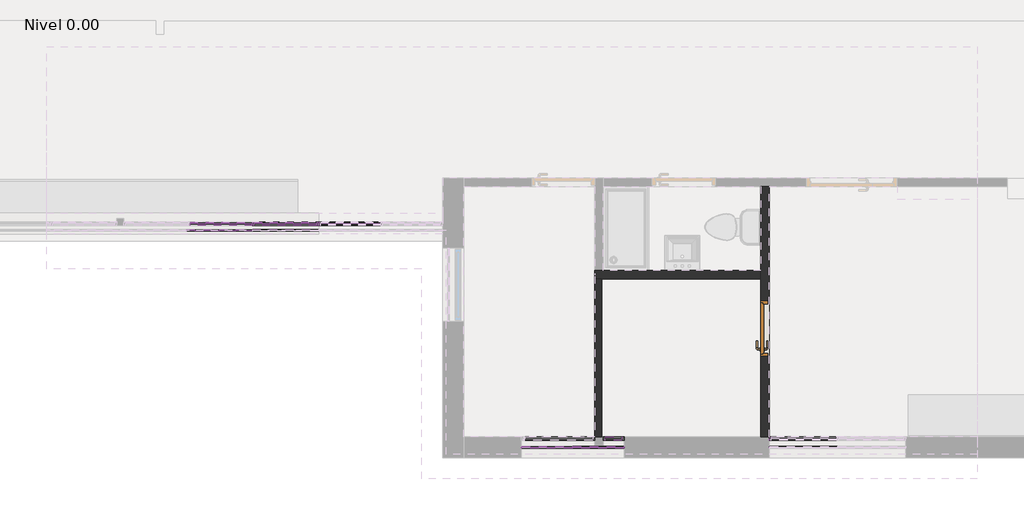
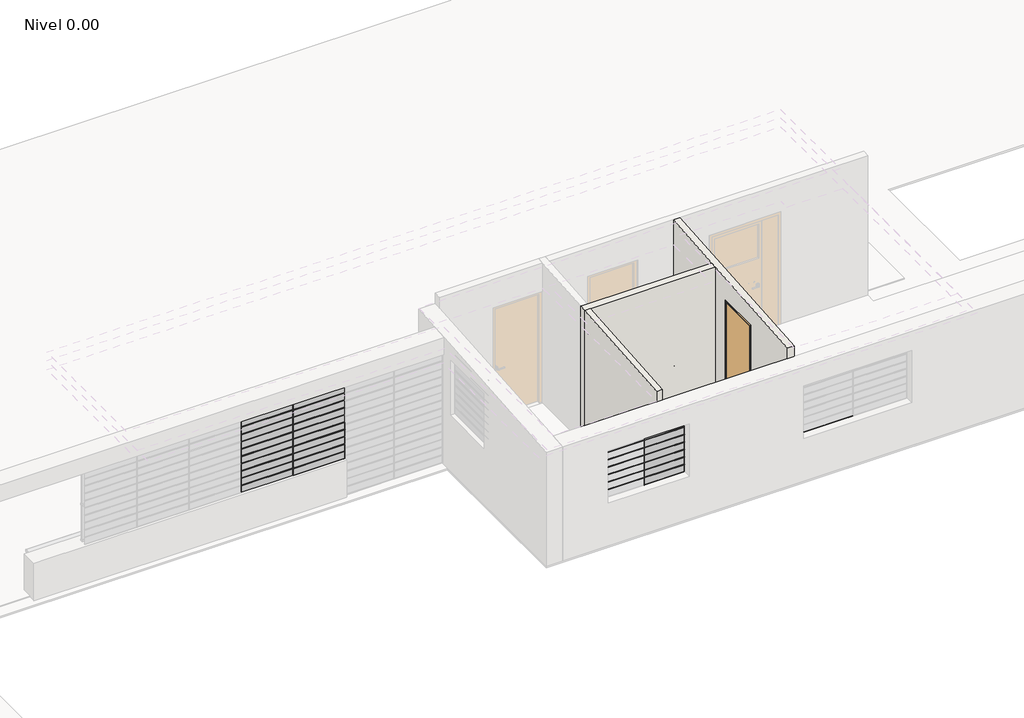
# One storey, part 7 of 27: 88 members, 35 plates, 3 walls, 1 door.
"""IFC4 building model written with IfcOpenShell, lengths in millimetres."""

from ifc_helpers import new_model, si_unit, origin, place, context, project, spatial, faceted_brep, transform, mapped, element, save
from components import puerta_c_06_c06_800x2100mm_e445e519, circular_mullion_14d4c897, circular_mullion_b6a7991f, l_corner_mullion_2c31851b, l_corner_mullion_7bb9dce8, l_corner_mullion_3b3bdf5d, rectangular_mullion_6f6a8ff1, rectangular_mullion_a87e72df, rectangular_mullion_5c6d569c, rectangular_mullion_a4ea75e5, rectangular_mullion_8e38926e, rectangular_mullion_6697ab7a, rectangular_mullion_da1864a4, rectangular_mullion_1f0e14fc, rectangular_mullion_1d964787, rectangular_mullion_5f2e1c77, rectangular_mullion_5442057b, rectangular_mullion_b6f05ad7, rectangular_mullion_bfd1b04e, rectangular_mullion_af5448d7, system_panel_948e591e, system_panel_a232d2f8, system_panel_3d32e46b, system_panel_766ca25a, system_panel_glazed_6e84255a, system_panel_glazed_6576376f, system_panel_glazed_aa347208, system_panel_glazed_7560b1bc

model = new_model("IFC4")

# Units and contexts
model_context = context("Model", 3, world=origin())
ifc_project = project(units=[si_unit("LENGTHUNIT", "METRE", prefix="MILLI")], contexts=[model_context])

# Site, building, storey
site = spatial("IfcSite", under=ifc_project)
building = spatial("IfcBuilding", under=site)
storey = spatial("IfcBuildingStorey", under=building, Name="Nivel 0.00", Elevation=0.0)

# Door
placement = place(None, origin())
puerta_c_06_c06_800x2100mm_shape = puerta_c_06_c06_800x2100mm_e445e519(model_context)
element("IfcDoor", 1, ObjectType="PUERTA_C-06 : C06_800X2100mm", at=placement, inside=storey, context=model_context, shape_type="MappedRepresentation", body=[
    mapped(puerta_c_06_c06_800x2100mm_shape, transform((7836.3277626, -5240.5282624, 0.0), x_axis=(0.0, 1.0, 0.0), y_axis=(-1.0, 0.0, 0.0), z_axis=(0.0, 0.0, 1.0))),
])

# Members
circular_mullion_shape = circular_mullion_14d4c897(model_context)
element("IfcMember", 2, ObjectType="Circular Mullion : ARQ_HERR_16mm", at=placement, inside=storey, context=model_context, shape_type="MappedRepresentation", body=[
    mapped(circular_mullion_shape, transform((510.87331, -3840.5609004, 840.0), x_axis=(0.0, 0.0, 1.0), y_axis=(0.0, -1.0, 0.0), z_axis=(1.0, 0.0, 0.0))),
])
element("IfcMember", 3, ObjectType="Circular Mullion : ARQ_HERR_16mm", at=placement, inside=storey, context=model_context, shape_type="MappedRepresentation", body=[
    mapped(circular_mullion_shape, transform((510.87331, -3840.5609004, 980.0), x_axis=(0.0, 0.0, 1.0), y_axis=(0.0, -1.0, 0.0), z_axis=(1.0, 0.0, 0.0))),
])
element("IfcMember", 4, ObjectType="Circular Mullion : ARQ_HERR_16mm", at=placement, inside=storey, context=model_context, shape_type="MappedRepresentation", body=[
    mapped(circular_mullion_shape, transform((510.87331, -3840.5609004, 1120.0), x_axis=(0.0, 0.0, 1.0), y_axis=(0.0, -1.0, 0.0), z_axis=(1.0, 0.0, 0.0))),
])
element("IfcMember", 5, ObjectType="Circular Mullion : ARQ_HERR_16mm", at=placement, inside=storey, context=model_context, shape_type="MappedRepresentation", body=[
    mapped(circular_mullion_shape, transform((510.87331, -3840.5609004, 1260.0), x_axis=(0.0, 0.0, 1.0), y_axis=(0.0, -1.0, 0.0), z_axis=(1.0, 0.0, 0.0))),
])
element("IfcMember", 6, ObjectType="Circular Mullion : ARQ_HERR_16mm", at=placement, inside=storey, context=model_context, shape_type="MappedRepresentation", body=[
    mapped(circular_mullion_shape, transform((510.87331, -3840.5609004, 1400.0), x_axis=(0.0, 0.0, 1.0), y_axis=(0.0, -1.0, 0.0), z_axis=(1.0, 0.0, 0.0))),
])
element("IfcMember", 7, ObjectType="Circular Mullion : ARQ_HERR_16mm", at=placement, inside=storey, context=model_context, shape_type="MappedRepresentation", body=[
    mapped(circular_mullion_shape, transform((510.87331, -3840.5609004, 1540.0), x_axis=(0.0, 0.0, 1.0), y_axis=(0.0, -1.0, 0.0), z_axis=(1.0, 0.0, 0.0))),
])
element("IfcMember", 8, ObjectType="Circular Mullion : ARQ_HERR_16mm", at=placement, inside=storey, context=model_context, shape_type="MappedRepresentation", body=[
    mapped(circular_mullion_shape, transform((510.87331, -3840.5609004, 1680.0), x_axis=(0.0, 0.0, 1.0), y_axis=(0.0, -1.0, 0.0), z_axis=(1.0, 0.0, 0.0))),
])
element("IfcMember", 9, ObjectType="Circular Mullion : ARQ_HERR_16mm", at=placement, inside=storey, context=model_context, shape_type="MappedRepresentation", body=[
    mapped(circular_mullion_shape, transform((510.87331, -3840.5609004, 1820.0), x_axis=(0.0, 0.0, 1.0), y_axis=(0.0, -1.0, 0.0), z_axis=(1.0, 0.0, 0.0))),
])
element("IfcMember", 10, ObjectType="Circular Mullion : ARQ_HERR_16mm", at=placement, inside=storey, context=model_context, shape_type="MappedRepresentation", body=[
    mapped(circular_mullion_shape, transform((510.87331, -3840.5609004, 1960.0), x_axis=(0.0, 0.0, 1.0), y_axis=(0.0, -1.0, 0.0), z_axis=(1.0, 0.0, 0.0))),
])
circular_mullion_2_shape = circular_mullion_b6a7991f(model_context)
element("IfcMember", 11, ObjectType="Circular Mullion : ARQ_HERR_16mm", at=placement, inside=storey, context=model_context, shape_type="MappedRepresentation", body=[
    mapped(circular_mullion_2_shape, transform((5081.4266325, -6940.6055729, 942.8571429), x_axis=(0.0, 0.0, 1.0), y_axis=(0.0, -1.0, 0.0), z_axis=(1.0, 0.0, 0.0))),
])
element("IfcMember", 12, ObjectType="Circular Mullion : ARQ_HERR_16mm", at=placement, inside=storey, context=model_context, shape_type="MappedRepresentation", body=[
    mapped(circular_mullion_2_shape, transform((5812.63943, -6940.6055729, 942.8571429), x_axis=(0.0, 0.0, 1.0), y_axis=(0.0, -1.0, 0.0), z_axis=(1.0, 0.0, 0.0))),
])
element("IfcMember", 13, ObjectType="Circular Mullion : ARQ_HERR_16mm", at=placement, inside=storey, context=model_context, shape_type="MappedRepresentation", body=[
    mapped(circular_mullion_2_shape, transform((5081.4266325, -6940.6055729, 1085.7142857), x_axis=(0.0, 0.0, 1.0), y_axis=(0.0, -1.0, 0.0), z_axis=(1.0, 0.0, 0.0))),
])
element("IfcMember", 14, ObjectType="Circular Mullion : ARQ_HERR_16mm", at=placement, inside=storey, context=model_context, shape_type="MappedRepresentation", body=[
    mapped(circular_mullion_2_shape, transform((5812.63943, -6940.6055729, 1085.7142857), x_axis=(0.0, 0.0, 1.0), y_axis=(0.0, -1.0, 0.0), z_axis=(1.0, 0.0, 0.0))),
])
element("IfcMember", 15, ObjectType="Circular Mullion : ARQ_HERR_16mm", at=placement, inside=storey, context=model_context, shape_type="MappedRepresentation", body=[
    mapped(circular_mullion_2_shape, transform((5081.4266325, -6940.6055729, 1228.5714286), x_axis=(0.0, 0.0, 1.0), y_axis=(0.0, -1.0, 0.0), z_axis=(1.0, 0.0, 0.0))),
])
element("IfcMember", 16, ObjectType="Circular Mullion : ARQ_HERR_16mm", at=placement, inside=storey, context=model_context, shape_type="MappedRepresentation", body=[
    mapped(circular_mullion_2_shape, transform((5812.63943, -6940.6055729, 1228.5714286), x_axis=(0.0, 0.0, 1.0), y_axis=(0.0, -1.0, 0.0), z_axis=(1.0, 0.0, 0.0))),
])
element("IfcMember", 17, ObjectType="Circular Mullion : ARQ_HERR_16mm", at=placement, inside=storey, context=model_context, shape_type="MappedRepresentation", body=[
    mapped(circular_mullion_2_shape, transform((5081.4266325, -6940.6055729, 1371.4285714), x_axis=(0.0, 0.0, 1.0), y_axis=(0.0, -1.0, 0.0), z_axis=(1.0, 0.0, 0.0))),
])
element("IfcMember", 18, ObjectType="Circular Mullion : ARQ_HERR_16mm", at=placement, inside=storey, context=model_context, shape_type="MappedRepresentation", body=[
    mapped(circular_mullion_2_shape, transform((5812.63943, -6940.6055729, 1371.4285714), x_axis=(0.0, 0.0, 1.0), y_axis=(0.0, -1.0, 0.0), z_axis=(1.0, 0.0, 0.0))),
])
element("IfcMember", 19, ObjectType="Circular Mullion : ARQ_HERR_16mm", at=placement, inside=storey, context=model_context, shape_type="MappedRepresentation", body=[
    mapped(circular_mullion_2_shape, transform((5081.4266325, -6940.6055729, 1514.2857143), x_axis=(0.0, 0.0, 1.0), y_axis=(0.0, -1.0, 0.0), z_axis=(1.0, 0.0, 0.0))),
])
element("IfcMember", 20, ObjectType="Circular Mullion : ARQ_HERR_16mm", at=placement, inside=storey, context=model_context, shape_type="MappedRepresentation", body=[
    mapped(circular_mullion_2_shape, transform((5812.63943, -6940.6055729, 1514.2857143), x_axis=(0.0, 0.0, 1.0), y_axis=(0.0, -1.0, 0.0), z_axis=(1.0, 0.0, 0.0))),
])
element("IfcMember", 21, ObjectType="Circular Mullion : ARQ_HERR_16mm", at=placement, inside=storey, context=model_context, shape_type="MappedRepresentation", body=[
    mapped(circular_mullion_2_shape, transform((5081.4266325, -6940.6055729, 1657.1428571), x_axis=(0.0, 0.0, 1.0), y_axis=(0.0, -1.0, 0.0), z_axis=(1.0, 0.0, 0.0))),
])
element("IfcMember", 22, ObjectType="Circular Mullion : ARQ_HERR_16mm", at=placement, inside=storey, context=model_context, shape_type="MappedRepresentation", body=[
    mapped(circular_mullion_2_shape, transform((5812.63943, -6940.6055729, 1657.1428571), x_axis=(0.0, 0.0, 1.0), y_axis=(0.0, -1.0, 0.0), z_axis=(1.0, 0.0, 0.0))),
])
l_corner_mullion_shape = l_corner_mullion_2c31851b(model_context)
element("IfcMember", 23, ObjectType="L Corner Mullion : ARQ_HERR_15X6mm", at=placement, inside=storey, context=model_context, shape_type="MappedRepresentation", body=[
    mapped(l_corner_mullion_shape, transform((1453.0591264, -3840.5609004, 2100.0), x_axis=(0.0, 0.0, 1.0), y_axis=(0.0, -1.0, 0.0), z_axis=(1.0, 0.0, 0.0))),
])
element("IfcMember", 24, ObjectType="L Corner Mullion : ARQ_HERR_15X6mm", at=placement, inside=storey, context=model_context, shape_type="MappedRepresentation", body=[
    mapped(l_corner_mullion_shape, transform((510.87331, -3840.5609004, 2100.0), x_axis=(0.0, 0.0, 1.0), y_axis=(0.0, -1.0, 0.0), z_axis=(1.0, 0.0, 0.0))),
])
element("IfcMember", 25, ObjectType="L Corner Mullion : ARQ_HERR_15X6mm", at=placement, inside=storey, context=model_context, shape_type="MappedRepresentation", body=[
    mapped(l_corner_mullion_shape, transform((516.87331, -3840.5609004, 700.0), x_axis=(0.0, 0.0, -1.0), y_axis=(0.0, -1.0, 0.0), z_axis=(-1.0, 0.0, 0.0))),
])
l_corner_mullion_2_shape = l_corner_mullion_7bb9dce8(model_context)
element("IfcMember", 26, ObjectType="L Corner Mullion : ARQ_HERR_15X6mm", at=placement, inside=storey, context=model_context, shape_type="MappedRepresentation", body=[
    mapped(l_corner_mullion_2_shape, transform((7896.2514946, -6940.6055729, 800.0), x_axis=(0.0, 0.0, -1.0), y_axis=(0.0, -1.0, 0.0), z_axis=(-1.0, 0.0, 0.0))),
])
l_corner_mullion_3_shape = l_corner_mullion_3b3bdf5d(model_context)
element("IfcMember", 27, ObjectType="L Corner Mullion : ARQ_HERR_15X6mm", at=placement, inside=storey, context=model_context, shape_type="MappedRepresentation", body=[
    mapped(l_corner_mullion_3_shape, transform((5812.63943, -6940.6055729, 1800.0), x_axis=(0.0, 0.0, 1.0), y_axis=(0.0, -1.0, 0.0), z_axis=(1.0, 0.0, 0.0))),
])
element("IfcMember", 28, ObjectType="L Corner Mullion : ARQ_HERR_15X6mm", at=placement, inside=storey, context=model_context, shape_type="MappedRepresentation", body=[
    mapped(l_corner_mullion_3_shape, transform((5081.4266325, -6940.6055729, 1800.0), x_axis=(0.0, 0.0, 1.0), y_axis=(0.0, -1.0, 0.0), z_axis=(1.0, 0.0, 0.0))),
])
element("IfcMember", 29, ObjectType="L Corner Mullion : ARQ_HERR_15X6mm", at=placement, inside=storey, context=model_context, shape_type="MappedRepresentation", body=[
    mapped(l_corner_mullion_3_shape, transform((5087.4266325, -6940.6055729, 800.0), x_axis=(0.0, 0.0, -1.0), y_axis=(0.0, -1.0, 0.0), z_axis=(-1.0, 0.0, 0.0))),
])
rectangular_mullion_shape = rectangular_mullion_6f6a8ff1(model_context)
element("IfcMember", 30, ObjectType="Rectangular Mullion : ARQ_TV_MULL_50x30mm", at=placement, inside=storey, context=model_context, shape_type="MappedRepresentation", body=[
    mapped(rectangular_mullion_shape, transform((1489.0591264, -3740.5609013, 0.0), x_axis=(0.0, 0.0, -1.0), y_axis=(0.0, -1.0, 0.0), z_axis=(-1.0, 0.0, 0.0))),
])
rectangular_mullion_2_shape = rectangular_mullion_a87e72df(model_context)
element("IfcMember", 31, ObjectType="Rectangular Mullion : ARQ_TV_MULL_50x30mm", at=placement, inside=storey, context=model_context, shape_type="MappedRepresentation", body=[
    mapped(rectangular_mullion_2_shape, transform((527.3320431, -3740.5609004, 700.0), x_axis=(1.0, 0.0, 0.0), y_axis=(0.0, -1.0, 0.0), z_axis=(0.0, 0.0, -1.0))),
])
element("IfcMember", 32, ObjectType="Rectangular Mullion : ARQ_TV_MULL_50x30mm", at=placement, inside=storey, context=model_context, shape_type="MappedRepresentation", body=[
    mapped(rectangular_mullion_2_shape, transform((527.3320431, -3740.5609004, 1400.0), x_axis=(1.0, 0.0, 0.0), y_axis=(0.0, -1.0, 0.0), z_axis=(0.0, 0.0, -1.0))),
])
rectangular_mullion_3_shape = rectangular_mullion_5c6d569c(model_context)
element("IfcMember", 33, ObjectType="Rectangular Mullion : ARQ_TV_MULL_50x30mm", at=placement, inside=storey, context=model_context, shape_type="MappedRepresentation", body=[
    mapped(rectangular_mullion_3_shape, transform((1459.0591264, -3740.5609004, 700.0), x_axis=(1.0, 0.0, 0.0), y_axis=(0.0, -1.0, 0.0), z_axis=(0.0, 0.0, -1.0))),
])
element("IfcMember", 34, ObjectType="Rectangular Mullion : ARQ_TV_MULL_50x30mm", at=placement, inside=storey, context=model_context, shape_type="MappedRepresentation", body=[
    mapped(rectangular_mullion_3_shape, transform((1459.0591264, -3740.5609004, 1400.0), x_axis=(1.0, 0.0, 0.0), y_axis=(0.0, -1.0, 0.0), z_axis=(0.0, 0.0, -1.0))),
])
element("IfcMember", 35, ObjectType="Rectangular Mullion : ARQ_TV_MULL_50x30mm", at=placement, inside=storey, context=model_context, shape_type="MappedRepresentation", body=[
    mapped(rectangular_mullion_3_shape, transform((1459.0591264, -3740.5609013, 2100.0), x_axis=(-1.0, 0.0, 0.0), y_axis=(0.0, -1.0, 0.0), z_axis=(0.0, 0.0, 1.0))),
])
element("IfcMember", 36, ObjectType="Rectangular Mullion : ARQ_TV_MULL_50x30mm", at=placement, inside=storey, context=model_context, shape_type="MappedRepresentation", body=[
    mapped(rectangular_mullion_3_shape, transform((1459.0591264, -3740.5609013, 700.0), x_axis=(-1.0, 0.0, 0.0), y_axis=(0.0, -1.0, 0.0), z_axis=(0.0, 0.0, 1.0))),
])
element("IfcMember", 37, ObjectType="Rectangular Mullion : ARQ_TV_MULL_50x30mm", at=placement, inside=storey, context=model_context, shape_type="MappedRepresentation", body=[
    mapped(rectangular_mullion_3_shape, transform((1459.0591264, -3740.5609013, 1400.0), x_axis=(-1.0, 0.0, 0.0), y_axis=(0.0, -1.0, 0.0), z_axis=(0.0, 0.0, 1.0))),
])
rectangular_mullion_4_shape = rectangular_mullion_a4ea75e5(model_context)
element("IfcMember", 38, ObjectType="Rectangular Mullion : ARQ_TV_MULL_50x30mm", at=placement, inside=storey, context=model_context, shape_type="MappedRepresentation", body=[
    mapped(rectangular_mullion_4_shape, transform((1429.0591264, -3740.5609004, 2100.0), x_axis=(0.0, 0.0, 1.0), y_axis=(0.0, -1.0, 0.0), z_axis=(1.0, 0.0, 0.0))),
])
element("IfcMember", 39, ObjectType="Rectangular Mullion : ARQ_TV_MULL_50x30mm", at=placement, inside=storey, context=model_context, shape_type="MappedRepresentation", body=[
    mapped(rectangular_mullion_4_shape, transform((512.3320431, -3740.5609004, 2100.0), x_axis=(0.0, 0.0, 1.0), y_axis=(0.0, -1.0, 0.0), z_axis=(1.0, 0.0, 0.0))),
])
element("IfcMember", 40, ObjectType="Rectangular Mullion : ARQ_TV_MULL_50x30mm", at=placement, inside=storey, context=model_context, shape_type="MappedRepresentation", body=[
    mapped(rectangular_mullion_4_shape, transform((542.3320431, -3740.5609004, 700.0), x_axis=(0.0, 0.0, -1.0), y_axis=(0.0, -1.0, 0.0), z_axis=(-1.0, 0.0, 0.0))),
])
rectangular_mullion_5_shape = rectangular_mullion_8e38926e(model_context)
element("IfcMember", 41, ObjectType="Rectangular Mullion : ARQ_TV_MULL_50x30mm", at=placement, inside=storey, context=model_context, shape_type="MappedRepresentation", body=[
    mapped(rectangular_mullion_5_shape, transform((512.3320431, -3740.5609004, 1400.0), x_axis=(0.0, 0.0, 1.0), y_axis=(0.0, -1.0, 0.0), z_axis=(1.0, 0.0, 0.0))),
])
element("IfcMember", 42, ObjectType="Rectangular Mullion : ARQ_TV_MULL_50x30mm", at=placement, inside=storey, context=model_context, shape_type="MappedRepresentation", body=[
    mapped(rectangular_mullion_5_shape, transform((1429.0591264, -3740.5609004, 1400.0), x_axis=(0.0, 0.0, 1.0), y_axis=(0.0, -1.0, 0.0), z_axis=(1.0, 0.0, 0.0))),
])
rectangular_mullion_6_shape = rectangular_mullion_6697ab7a(model_context)
element("IfcMember", 43, ObjectType="Rectangular Mullion : ARQ_TV_MULL_50x30mm", at=placement, inside=storey, context=model_context, shape_type="MappedRepresentation", body=[
    mapped(rectangular_mullion_6_shape, transform((5369.9777624, -6815.6055729, 800.0), x_axis=(0.0, 0.0, -1.0), y_axis=(0.0, 1.0, 0.0), z_axis=(1.0, 0.0, 0.0))),
])
rectangular_mullion_7_shape = rectangular_mullion_da1864a4(model_context)
element("IfcMember", 44, ObjectType="Rectangular Mullion : ARQ_TV_MULL_50x30mm", at=placement, inside=storey, context=model_context, shape_type="MappedRepresentation", body=[
    mapped(rectangular_mullion_7_shape, transform((5788.63943, -6815.6055729, 1800.0), x_axis=(0.0, 0.0, 1.0), y_axis=(0.0, -1.0, 0.0), z_axis=(1.0, 0.0, 0.0))),
])
element("IfcMember", 45, ObjectType="Rectangular Mullion : ARQ_TV_MULL_50x30mm", at=placement, inside=storey, context=model_context, shape_type="MappedRepresentation", body=[
    mapped(rectangular_mullion_7_shape, transform((5549.9777624, -6815.6055729, 800.0), x_axis=(0.0, 0.0, -1.0), y_axis=(0.0, -1.0, 0.0), z_axis=(-1.0, 0.0, 0.0))),
])
rectangular_mullion_8_shape = rectangular_mullion_1f0e14fc(model_context)
element("IfcMember", 46, ObjectType="Rectangular Mullion : ARQ_TV_MULL_50x30mm", at=placement, inside=storey, context=model_context, shape_type="MappedRepresentation", body=[
    mapped(rectangular_mullion_8_shape, transform((7920.2514946, -6815.6055729, 800.0), x_axis=(0.0, 0.0, -1.0), y_axis=(0.0, -1.0, 0.0), z_axis=(-1.0, 0.0, 0.0))),
])
rectangular_mullion_9_shape = rectangular_mullion_1d964787(model_context)
element("IfcMember", 47, ObjectType="Rectangular Mullion : ARQ_TV_MULL_50x30mm", at=placement, inside=storey, context=model_context, shape_type="MappedRepresentation", body=[
    mapped(rectangular_mullion_9_shape, transform((5818.63943, -6815.6055729, 800.0), x_axis=(1.0, 0.0, 0.0), y_axis=(0.0, -1.0, 0.0), z_axis=(0.0, 0.0, -1.0))),
])
element("IfcMember", 48, ObjectType="Rectangular Mullion : ARQ_TV_MULL_50x30mm", at=placement, inside=storey, context=model_context, shape_type="MappedRepresentation", body=[
    mapped(rectangular_mullion_9_shape, transform((5399.9777624, -6815.6055729, 1800.0), x_axis=(1.0, 0.0, 0.0), y_axis=(0.0, 1.0, 0.0), z_axis=(0.0, 0.0, 1.0))),
])
element("IfcMember", 49, ObjectType="Rectangular Mullion : ARQ_TV_MULL_50x30mm", at=placement, inside=storey, context=model_context, shape_type="MappedRepresentation", body=[
    mapped(rectangular_mullion_9_shape, transform((5519.9777624, -6815.6055729, 1800.0), x_axis=(-1.0, 0.0, 0.0), y_axis=(0.0, -1.0, 0.0), z_axis=(0.0, 0.0, 1.0))),
])
rectangular_mullion_10_shape = rectangular_mullion_5f2e1c77(model_context)
element("IfcMember", 50, ObjectType="Rectangular Mullion : ARQ_TV_MULL_50x30mm", at=placement, inside=storey, context=model_context, shape_type="MappedRepresentation", body=[
    mapped(rectangular_mullion_10_shape, transform((7890.2514946, -6815.6055729, 1800.0), x_axis=(-1.0, 0.0, 0.0), y_axis=(0.0, -1.0, 0.0), z_axis=(0.0, 0.0, 1.0))),
])
element("IfcMember", 51, ObjectType="Rectangular Mullion : ARQ_TV_MULL_50x30mm", at=placement, inside=storey, context=model_context, shape_type="MappedRepresentation", body=[
    mapped(rectangular_mullion_10_shape, transform((7890.2514946, -6815.6055729, 1300.0), x_axis=(-1.0, 0.0, 0.0), y_axis=(0.0, -1.0, 0.0), z_axis=(0.0, 0.0, 1.0))),
])
rectangular_mullion_11_shape = rectangular_mullion_5442057b(model_context)
element("IfcMember", 52, ObjectType="Rectangular Mullion : ARQ_HERR_15X6mm", at=placement, inside=storey, context=model_context, shape_type="MappedRepresentation", body=[
    mapped(rectangular_mullion_11_shape, transform((513.87331, -3840.5609004, 700.0), x_axis=(1.0, 0.0, 0.0), y_axis=(0.0, -1.0, 0.0), z_axis=(0.0, 0.0, -1.0))),
])
element("IfcMember", 53, ObjectType="Rectangular Mullion : ARQ_HERR_15X6mm", at=placement, inside=storey, context=model_context, shape_type="MappedRepresentation", body=[
    mapped(rectangular_mullion_11_shape, transform((513.87331, -3840.5609004, 840.0), x_axis=(1.0, 0.0, 0.0), y_axis=(0.0, -1.0, 0.0), z_axis=(0.0, 0.0, -1.0))),
])
element("IfcMember", 54, ObjectType="Rectangular Mullion : ARQ_HERR_15X6mm", at=placement, inside=storey, context=model_context, shape_type="MappedRepresentation", body=[
    mapped(rectangular_mullion_11_shape, transform((513.87331, -3840.5609004, 980.0), x_axis=(1.0, 0.0, 0.0), y_axis=(0.0, -1.0, 0.0), z_axis=(0.0, 0.0, -1.0))),
])
element("IfcMember", 55, ObjectType="Rectangular Mullion : ARQ_HERR_15X6mm", at=placement, inside=storey, context=model_context, shape_type="MappedRepresentation", body=[
    mapped(rectangular_mullion_11_shape, transform((513.87331, -3840.5609004, 1120.0), x_axis=(1.0, 0.0, 0.0), y_axis=(0.0, -1.0, 0.0), z_axis=(0.0, 0.0, -1.0))),
])
element("IfcMember", 56, ObjectType="Rectangular Mullion : ARQ_HERR_15X6mm", at=placement, inside=storey, context=model_context, shape_type="MappedRepresentation", body=[
    mapped(rectangular_mullion_11_shape, transform((513.87331, -3840.5609004, 1260.0), x_axis=(1.0, 0.0, 0.0), y_axis=(0.0, -1.0, 0.0), z_axis=(0.0, 0.0, -1.0))),
])
element("IfcMember", 57, ObjectType="Rectangular Mullion : ARQ_HERR_15X6mm", at=placement, inside=storey, context=model_context, shape_type="MappedRepresentation", body=[
    mapped(rectangular_mullion_11_shape, transform((513.87331, -3840.5609004, 1400.0), x_axis=(1.0, 0.0, 0.0), y_axis=(0.0, -1.0, 0.0), z_axis=(0.0, 0.0, -1.0))),
])
element("IfcMember", 58, ObjectType="Rectangular Mullion : ARQ_HERR_15X6mm", at=placement, inside=storey, context=model_context, shape_type="MappedRepresentation", body=[
    mapped(rectangular_mullion_11_shape, transform((513.87331, -3840.5609004, 1540.0), x_axis=(1.0, 0.0, 0.0), y_axis=(0.0, -1.0, 0.0), z_axis=(0.0, 0.0, -1.0))),
])
element("IfcMember", 59, ObjectType="Rectangular Mullion : ARQ_HERR_15X6mm", at=placement, inside=storey, context=model_context, shape_type="MappedRepresentation", body=[
    mapped(rectangular_mullion_11_shape, transform((513.87331, -3840.5609004, 1680.0), x_axis=(1.0, 0.0, 0.0), y_axis=(0.0, -1.0, 0.0), z_axis=(0.0, 0.0, -1.0))),
])
element("IfcMember", 60, ObjectType="Rectangular Mullion : ARQ_HERR_15X6mm", at=placement, inside=storey, context=model_context, shape_type="MappedRepresentation", body=[
    mapped(rectangular_mullion_11_shape, transform((513.87331, -3840.5609004, 1820.0), x_axis=(1.0, 0.0, 0.0), y_axis=(0.0, -1.0, 0.0), z_axis=(0.0, 0.0, -1.0))),
])
element("IfcMember", 61, ObjectType="Rectangular Mullion : ARQ_HERR_15X6mm", at=placement, inside=storey, context=model_context, shape_type="MappedRepresentation", body=[
    mapped(rectangular_mullion_11_shape, transform((513.87331, -3840.5609004, 1960.0), x_axis=(1.0, 0.0, 0.0), y_axis=(0.0, -1.0, 0.0), z_axis=(0.0, 0.0, -1.0))),
])
rectangular_mullion_12_shape = rectangular_mullion_b6f05ad7(model_context)
element("IfcMember", 62, ObjectType="Rectangular Mullion : ARQ_HERR_15X6mm", at=placement, inside=storey, context=model_context, shape_type="MappedRepresentation", body=[
    mapped(rectangular_mullion_12_shape, transform((1459.0591264, -3840.5609004, 700.0), x_axis=(1.0, 0.0, 0.0), y_axis=(0.0, -1.0, 0.0), z_axis=(0.0, 0.0, -1.0))),
])
element("IfcMember", 63, ObjectType="Rectangular Mullion : ARQ_HERR_15X6mm", at=placement, inside=storey, context=model_context, shape_type="MappedRepresentation", body=[
    mapped(rectangular_mullion_12_shape, transform((1459.0591264, -3840.5609004, 840.0), x_axis=(1.0, 0.0, 0.0), y_axis=(0.0, -1.0, 0.0), z_axis=(0.0, 0.0, -1.0))),
])
element("IfcMember", 64, ObjectType="Rectangular Mullion : ARQ_HERR_15X6mm", at=placement, inside=storey, context=model_context, shape_type="MappedRepresentation", body=[
    mapped(rectangular_mullion_12_shape, transform((1459.0591264, -3840.5609004, 980.0), x_axis=(1.0, 0.0, 0.0), y_axis=(0.0, -1.0, 0.0), z_axis=(0.0, 0.0, -1.0))),
])
element("IfcMember", 65, ObjectType="Rectangular Mullion : ARQ_HERR_15X6mm", at=placement, inside=storey, context=model_context, shape_type="MappedRepresentation", body=[
    mapped(rectangular_mullion_12_shape, transform((1459.0591264, -3840.5609004, 1120.0), x_axis=(1.0, 0.0, 0.0), y_axis=(0.0, -1.0, 0.0), z_axis=(0.0, 0.0, -1.0))),
])
element("IfcMember", 66, ObjectType="Rectangular Mullion : ARQ_HERR_15X6mm", at=placement, inside=storey, context=model_context, shape_type="MappedRepresentation", body=[
    mapped(rectangular_mullion_12_shape, transform((1459.0591264, -3840.5609004, 1260.0), x_axis=(1.0, 0.0, 0.0), y_axis=(0.0, -1.0, 0.0), z_axis=(0.0, 0.0, -1.0))),
])
rectangular_mullion_13_shape = rectangular_mullion_bfd1b04e(model_context)
element("IfcMember", 67, ObjectType="Rectangular Mullion : ARQ_HERR_15X6mm", at=placement, inside=storey, context=model_context, shape_type="MappedRepresentation", body=[
    mapped(rectangular_mullion_13_shape, transform((5084.4266325, -6940.6055729, 800.0), x_axis=(1.0, 0.0, 0.0), y_axis=(0.0, -1.0, 0.0), z_axis=(0.0, 0.0, -1.0))),
])
element("IfcMember", 68, ObjectType="Rectangular Mullion : ARQ_HERR_15X6mm", at=placement, inside=storey, context=model_context, shape_type="MappedRepresentation", body=[
    mapped(rectangular_mullion_13_shape, transform((5084.4266325, -6940.6055729, 942.8571429), x_axis=(1.0, 0.0, 0.0), y_axis=(0.0, -1.0, 0.0), z_axis=(0.0, 0.0, -1.0))),
])
element("IfcMember", 69, ObjectType="Rectangular Mullion : ARQ_HERR_15X6mm", at=placement, inside=storey, context=model_context, shape_type="MappedRepresentation", body=[
    mapped(rectangular_mullion_13_shape, transform((5084.4266325, -6940.6055729, 1085.7142857), x_axis=(1.0, 0.0, 0.0), y_axis=(0.0, -1.0, 0.0), z_axis=(0.0, 0.0, -1.0))),
])
element("IfcMember", 70, ObjectType="Rectangular Mullion : ARQ_HERR_15X6mm", at=placement, inside=storey, context=model_context, shape_type="MappedRepresentation", body=[
    mapped(rectangular_mullion_13_shape, transform((5084.4266325, -6940.6055729, 1228.5714286), x_axis=(1.0, 0.0, 0.0), y_axis=(0.0, -1.0, 0.0), z_axis=(0.0, 0.0, -1.0))),
])
element("IfcMember", 71, ObjectType="Rectangular Mullion : ARQ_HERR_15X6mm", at=placement, inside=storey, context=model_context, shape_type="MappedRepresentation", body=[
    mapped(rectangular_mullion_13_shape, transform((5084.4266325, -6940.6055729, 1371.4285714), x_axis=(1.0, 0.0, 0.0), y_axis=(0.0, -1.0, 0.0), z_axis=(0.0, 0.0, -1.0))),
])
element("IfcMember", 72, ObjectType="Rectangular Mullion : ARQ_HERR_15X6mm", at=placement, inside=storey, context=model_context, shape_type="MappedRepresentation", body=[
    mapped(rectangular_mullion_13_shape, transform((5084.4266325, -6940.6055729, 1514.2857143), x_axis=(1.0, 0.0, 0.0), y_axis=(0.0, -1.0, 0.0), z_axis=(0.0, 0.0, -1.0))),
])
element("IfcMember", 73, ObjectType="Rectangular Mullion : ARQ_HERR_15X6mm", at=placement, inside=storey, context=model_context, shape_type="MappedRepresentation", body=[
    mapped(rectangular_mullion_13_shape, transform((5084.4266325, -6940.6055729, 1657.1428571), x_axis=(1.0, 0.0, 0.0), y_axis=(0.0, -1.0, 0.0), z_axis=(0.0, 0.0, -1.0))),
])
rectangular_mullion_14_shape = rectangular_mullion_af5448d7(model_context)
element("IfcMember", 74, ObjectType="Rectangular Mullion : ARQ_HERR_15X6mm", at=placement, inside=storey, context=model_context, shape_type="MappedRepresentation", body=[
    mapped(rectangular_mullion_14_shape, transform((5818.63943, -6940.6055729, 800.0), x_axis=(1.0, 0.0, 0.0), y_axis=(0.0, -1.0, 0.0), z_axis=(0.0, 0.0, -1.0))),
])
element("IfcMember", 75, ObjectType="Rectangular Mullion : ARQ_HERR_15X6mm", at=placement, inside=storey, context=model_context, shape_type="MappedRepresentation", body=[
    mapped(rectangular_mullion_14_shape, transform((5818.63943, -6940.6055729, 942.8571429), x_axis=(1.0, 0.0, 0.0), y_axis=(0.0, -1.0, 0.0), z_axis=(0.0, 0.0, -1.0))),
])
element("IfcMember", 76, ObjectType="Rectangular Mullion : ARQ_HERR_15X6mm", at=placement, inside=storey, context=model_context, shape_type="MappedRepresentation", body=[
    mapped(rectangular_mullion_14_shape, transform((5818.63943, -6940.6055729, 1085.7142857), x_axis=(1.0, 0.0, 0.0), y_axis=(0.0, -1.0, 0.0), z_axis=(0.0, 0.0, -1.0))),
])
element("IfcMember", 77, ObjectType="Rectangular Mullion : ARQ_HERR_15X6mm", at=placement, inside=storey, context=model_context, shape_type="MappedRepresentation", body=[
    mapped(rectangular_mullion_14_shape, transform((5818.63943, -6940.6055729, 1228.5714286), x_axis=(1.0, 0.0, 0.0), y_axis=(0.0, -1.0, 0.0), z_axis=(0.0, 0.0, -1.0))),
])
element("IfcMember", 78, ObjectType="Rectangular Mullion : ARQ_HERR_15X6mm", at=placement, inside=storey, context=model_context, shape_type="MappedRepresentation", body=[
    mapped(rectangular_mullion_14_shape, transform((5818.63943, -6940.6055729, 1371.4285714), x_axis=(1.0, 0.0, 0.0), y_axis=(0.0, -1.0, 0.0), z_axis=(0.0, 0.0, -1.0))),
])
element("IfcMember", 79, ObjectType="Rectangular Mullion : ARQ_HERR_15X6mm", at=placement, inside=storey, context=model_context, shape_type="MappedRepresentation", body=[
    mapped(rectangular_mullion_14_shape, transform((5818.63943, -6940.6055729, 1514.2857143), x_axis=(1.0, 0.0, 0.0), y_axis=(0.0, -1.0, 0.0), z_axis=(0.0, 0.0, -1.0))),
])
element("IfcMember", 80, ObjectType="Rectangular Mullion : ARQ_HERR_15X6mm", at=placement, inside=storey, context=model_context, shape_type="MappedRepresentation", body=[
    mapped(rectangular_mullion_14_shape, transform((5818.63943, -6940.6055729, 1657.1428571), x_axis=(1.0, 0.0, 0.0), y_axis=(0.0, -1.0, 0.0), z_axis=(0.0, 0.0, -1.0))),
])
element("IfcMember", 81, ObjectType="Rectangular Mullion : ARQ_HERR_15X6mm", at=placement, inside=storey, context=model_context, shape_type="MappedRepresentation", body=[
    mapped(rectangular_mullion_14_shape, transform((7890.2514946, -6940.6055729, 1800.0), x_axis=(-1.0, 0.0, 0.0), y_axis=(0.0, -1.0, 0.0), z_axis=(0.0, 0.0, 1.0))),
])
element("IfcMember", 82, ObjectType="Rectangular Mullion : ARQ_HERR_15X6mm", at=placement, inside=storey, context=model_context, shape_type="MappedRepresentation", body=[
    mapped(rectangular_mullion_14_shape, transform((7890.2514946, -6940.6055729, 942.8571429), x_axis=(-1.0, 0.0, 0.0), y_axis=(0.0, -1.0, 0.0), z_axis=(0.0, 0.0, 1.0))),
])
element("IfcMember", 83, ObjectType="Rectangular Mullion : ARQ_HERR_15X6mm", at=placement, inside=storey, context=model_context, shape_type="MappedRepresentation", body=[
    mapped(rectangular_mullion_14_shape, transform((7890.2514946, -6940.6055729, 1085.7142857), x_axis=(-1.0, 0.0, 0.0), y_axis=(0.0, -1.0, 0.0), z_axis=(0.0, 0.0, 1.0))),
])
element("IfcMember", 84, ObjectType="Rectangular Mullion : ARQ_HERR_15X6mm", at=placement, inside=storey, context=model_context, shape_type="MappedRepresentation", body=[
    mapped(rectangular_mullion_14_shape, transform((7890.2514946, -6940.6055729, 1228.5714286), x_axis=(-1.0, 0.0, 0.0), y_axis=(0.0, -1.0, 0.0), z_axis=(0.0, 0.0, 1.0))),
])
element("IfcMember", 85, ObjectType="Rectangular Mullion : ARQ_HERR_15X6mm", at=placement, inside=storey, context=model_context, shape_type="MappedRepresentation", body=[
    mapped(rectangular_mullion_14_shape, transform((7890.2514946, -6940.6055729, 1371.4285714), x_axis=(-1.0, 0.0, 0.0), y_axis=(0.0, -1.0, 0.0), z_axis=(0.0, 0.0, 1.0))),
])
element("IfcMember", 86, ObjectType="Rectangular Mullion : ARQ_HERR_15X6mm", at=placement, inside=storey, context=model_context, shape_type="MappedRepresentation", body=[
    mapped(rectangular_mullion_14_shape, transform((7890.2514946, -6940.6055729, 1514.2857143), x_axis=(-1.0, 0.0, 0.0), y_axis=(0.0, -1.0, 0.0), z_axis=(0.0, 0.0, 1.0))),
])
element("IfcMember", 87, ObjectType="Rectangular Mullion : ARQ_HERR_15X6mm", at=placement, inside=storey, context=model_context, shape_type="MappedRepresentation", body=[
    mapped(rectangular_mullion_14_shape, transform((7890.2514946, -6940.6055729, 1657.1428571), x_axis=(-1.0, 0.0, 0.0), y_axis=(0.0, -1.0, 0.0), z_axis=(0.0, 0.0, 1.0))),
])
element("IfcMember", 88, ObjectType="Rectangular Mullion : ARQ_HERR_15X6mm", at=placement, inside=storey, context=model_context, shape_type="MappedRepresentation", body=[
    mapped(rectangular_mullion_14_shape, transform((4350.213835, -6940.6055729, 1514.2857143), x_axis=(-1.0, 0.0, 0.0), y_axis=(0.0, -1.0, 0.0), z_axis=(0.0, 0.0, 1.0))),
])
element("IfcMember", 89, ObjectType="Rectangular Mullion : ARQ_HERR_15X6mm", at=placement, inside=storey, context=model_context, shape_type="MappedRepresentation", body=[
    mapped(rectangular_mullion_14_shape, transform((4350.213835, -6940.6055729, 1657.1428571), x_axis=(-1.0, 0.0, 0.0), y_axis=(0.0, -1.0, 0.0), z_axis=(0.0, 0.0, 1.0))),
])

# Plates
system_panel_shape = system_panel_948e591e(model_context)
element("IfcPlate", 90, ObjectType="System Panel : VACÍO", at=placement, inside=storey, context=model_context, shape_type="MappedRepresentation", body=[
    mapped(system_panel_shape, transform((42.780402, -3840.5609004, 706.0), x_axis=(1.0, 0.0, 0.0), y_axis=(0.0, 1.0, 0.0), z_axis=(0.0, 0.0, 1.0))),
])
element("IfcPlate", 91, ObjectType="System Panel : VACÍO", at=placement, inside=storey, context=model_context, shape_type="MappedRepresentation", body=[
    mapped(system_panel_shape, transform((42.780402, -3840.5609004, 1968.0), x_axis=(1.0, 0.0, 0.0), y_axis=(0.0, 1.0, 0.0), z_axis=(0.0, 0.0, 1.0))),
])
element("IfcPlate", 92, ObjectType="System Panel : VACÍO", at=placement, inside=storey, context=model_context, shape_type="MappedRepresentation", body=[
    mapped(system_panel_shape, transform((984.9662182, -3840.5609004, 706.0), x_axis=(1.0, 0.0, 0.0), y_axis=(0.0, 1.0, 0.0), z_axis=(0.0, 0.0, 1.0))),
])
element("IfcPlate", 93, ObjectType="System Panel : VACÍO", at=placement, inside=storey, context=model_context, shape_type="MappedRepresentation", body=[
    mapped(system_panel_shape, transform((984.9662182, -3840.5609004, 1968.0), x_axis=(1.0, 0.0, 0.0), y_axis=(0.0, 1.0, 0.0), z_axis=(0.0, 0.0, 1.0))),
])
system_panel_2_shape = system_panel_a232d2f8(model_context)
element("IfcPlate", 94, ObjectType="System Panel : VACÍO", at=placement, inside=storey, context=model_context, shape_type="MappedRepresentation", body=[
    mapped(system_panel_2_shape, transform((42.780402, -3840.5609004, 848.0), x_axis=(1.0, 0.0, 0.0), y_axis=(0.0, 1.0, 0.0), z_axis=(0.0, 0.0, 1.0))),
])
element("IfcPlate", 95, ObjectType="System Panel : VACÍO", at=placement, inside=storey, context=model_context, shape_type="MappedRepresentation", body=[
    mapped(system_panel_2_shape, transform((42.780402, -3840.5609004, 988.0), x_axis=(1.0, 0.0, 0.0), y_axis=(0.0, 1.0, 0.0), z_axis=(0.0, 0.0, 1.0))),
])
element("IfcPlate", 96, ObjectType="System Panel : VACÍO", at=placement, inside=storey, context=model_context, shape_type="MappedRepresentation", body=[
    mapped(system_panel_2_shape, transform((42.780402, -3840.5609004, 1128.0), x_axis=(1.0, 0.0, 0.0), y_axis=(0.0, 1.0, 0.0), z_axis=(0.0, 0.0, 1.0))),
])
element("IfcPlate", 97, ObjectType="System Panel : VACÍO", at=placement, inside=storey, context=model_context, shape_type="MappedRepresentation", body=[
    mapped(system_panel_2_shape, transform((42.780402, -3840.5609004, 1268.0), x_axis=(1.0, 0.0, 0.0), y_axis=(0.0, 1.0, 0.0), z_axis=(0.0, 0.0, 1.0))),
])
element("IfcPlate", 98, ObjectType="System Panel : VACÍO", at=placement, inside=storey, context=model_context, shape_type="MappedRepresentation", body=[
    mapped(system_panel_2_shape, transform((42.780402, -3840.5609004, 1408.0), x_axis=(1.0, 0.0, 0.0), y_axis=(0.0, 1.0, 0.0), z_axis=(0.0, 0.0, 1.0))),
])
element("IfcPlate", 99, ObjectType="System Panel : VACÍO", at=placement, inside=storey, context=model_context, shape_type="MappedRepresentation", body=[
    mapped(system_panel_2_shape, transform((42.780402, -3840.5609004, 1548.0), x_axis=(1.0, 0.0, 0.0), y_axis=(0.0, 1.0, 0.0), z_axis=(0.0, 0.0, 1.0))),
])
element("IfcPlate", 100, ObjectType="System Panel : VACÍO", at=placement, inside=storey, context=model_context, shape_type="MappedRepresentation", body=[
    mapped(system_panel_2_shape, transform((42.780402, -3840.5609004, 1688.0), x_axis=(1.0, 0.0, 0.0), y_axis=(0.0, 1.0, 0.0), z_axis=(0.0, 0.0, 1.0))),
])
element("IfcPlate", 101, ObjectType="System Panel : VACÍO", at=placement, inside=storey, context=model_context, shape_type="MappedRepresentation", body=[
    mapped(system_panel_2_shape, transform((42.780402, -3840.5609004, 1828.0), x_axis=(1.0, 0.0, 0.0), y_axis=(0.0, 1.0, 0.0), z_axis=(0.0, 0.0, 1.0))),
])
element("IfcPlate", 102, ObjectType="System Panel : VACÍO", at=placement, inside=storey, context=model_context, shape_type="MappedRepresentation", body=[
    mapped(system_panel_2_shape, transform((984.9662182, -3840.5609004, 848.0), x_axis=(1.0, 0.0, 0.0), y_axis=(0.0, 1.0, 0.0), z_axis=(0.0, 0.0, 1.0))),
])
element("IfcPlate", 103, ObjectType="System Panel : VACÍO", at=placement, inside=storey, context=model_context, shape_type="MappedRepresentation", body=[
    mapped(system_panel_2_shape, transform((984.9662182, -3840.5609004, 988.0), x_axis=(1.0, 0.0, 0.0), y_axis=(0.0, 1.0, 0.0), z_axis=(0.0, 0.0, 1.0))),
])
element("IfcPlate", 104, ObjectType="System Panel : VACÍO", at=placement, inside=storey, context=model_context, shape_type="MappedRepresentation", body=[
    mapped(system_panel_2_shape, transform((984.9662182, -3840.5609004, 1128.0), x_axis=(1.0, 0.0, 0.0), y_axis=(0.0, 1.0, 0.0), z_axis=(0.0, 0.0, 1.0))),
])
element("IfcPlate", 105, ObjectType="System Panel : VACÍO", at=placement, inside=storey, context=model_context, shape_type="MappedRepresentation", body=[
    mapped(system_panel_2_shape, transform((984.9662182, -3840.5609004, 1268.0), x_axis=(1.0, 0.0, 0.0), y_axis=(0.0, 1.0, 0.0), z_axis=(0.0, 0.0, 1.0))),
])
element("IfcPlate", 106, ObjectType="System Panel : VACÍO", at=placement, inside=storey, context=model_context, shape_type="MappedRepresentation", body=[
    mapped(system_panel_2_shape, transform((984.9662182, -3840.5609004, 1408.0), x_axis=(1.0, 0.0, 0.0), y_axis=(0.0, 1.0, 0.0), z_axis=(0.0, 0.0, 1.0))),
])
element("IfcPlate", 107, ObjectType="System Panel : VACÍO", at=placement, inside=storey, context=model_context, shape_type="MappedRepresentation", body=[
    mapped(system_panel_2_shape, transform((984.9662182, -3840.5609004, 1548.0), x_axis=(1.0, 0.0, 0.0), y_axis=(0.0, 1.0, 0.0), z_axis=(0.0, 0.0, 1.0))),
])
element("IfcPlate", 108, ObjectType="System Panel : VACÍO", at=placement, inside=storey, context=model_context, shape_type="MappedRepresentation", body=[
    mapped(system_panel_2_shape, transform((984.9662182, -3840.5609004, 1688.0), x_axis=(1.0, 0.0, 0.0), y_axis=(0.0, 1.0, 0.0), z_axis=(0.0, 0.0, 1.0))),
])
element("IfcPlate", 109, ObjectType="System Panel : VACÍO", at=placement, inside=storey, context=model_context, shape_type="MappedRepresentation", body=[
    mapped(system_panel_2_shape, transform((984.9662182, -3840.5609004, 1828.0), x_axis=(1.0, 0.0, 0.0), y_axis=(0.0, 1.0, 0.0), z_axis=(0.0, 0.0, 1.0))),
])
system_panel_3_shape = system_panel_3d32e46b(model_context)
element("IfcPlate", 110, ObjectType="System Panel : VACÍO", at=placement, inside=storey, context=model_context, shape_type="MappedRepresentation", body=[
    mapped(system_panel_3_shape, transform((5450.0330313, -6940.6055729, 806.0), x_axis=(1.0, 0.0, 0.0), y_axis=(0.0, 1.0, 0.0), z_axis=(0.0, 0.0, 1.0))),
])
element("IfcPlate", 111, ObjectType="System Panel : VACÍO", at=placement, inside=storey, context=model_context, shape_type="MappedRepresentation", body=[
    mapped(system_panel_3_shape, transform((5450.0330313, -6940.6055729, 1665.1428571), x_axis=(1.0, 0.0, 0.0), y_axis=(0.0, 1.0, 0.0), z_axis=(0.0, 0.0, 1.0))),
])
system_panel_4_shape = system_panel_766ca25a(model_context)
element("IfcPlate", 112, ObjectType="System Panel : VACÍO", at=placement, inside=storey, context=model_context, shape_type="MappedRepresentation", body=[
    mapped(system_panel_4_shape, transform((5450.0330313, -6940.6055729, 950.8571429), x_axis=(1.0, 0.0, 0.0), y_axis=(0.0, 1.0, 0.0), z_axis=(0.0, 0.0, 1.0))),
])
element("IfcPlate", 113, ObjectType="System Panel : VACÍO", at=placement, inside=storey, context=model_context, shape_type="MappedRepresentation", body=[
    mapped(system_panel_4_shape, transform((5450.0330313, -6940.6055729, 1093.7142857), x_axis=(1.0, 0.0, 0.0), y_axis=(0.0, 1.0, 0.0), z_axis=(0.0, 0.0, 1.0))),
])
element("IfcPlate", 114, ObjectType="System Panel : VACÍO", at=placement, inside=storey, context=model_context, shape_type="MappedRepresentation", body=[
    mapped(system_panel_4_shape, transform((5450.0330313, -6940.6055729, 1236.5714286), x_axis=(1.0, 0.0, 0.0), y_axis=(0.0, 1.0, 0.0), z_axis=(0.0, 0.0, 1.0))),
])
element("IfcPlate", 115, ObjectType="System Panel : VACÍO", at=placement, inside=storey, context=model_context, shape_type="MappedRepresentation", body=[
    mapped(system_panel_4_shape, transform((5450.0330313, -6940.6055729, 1379.4285714), x_axis=(1.0, 0.0, 0.0), y_axis=(0.0, 1.0, 0.0), z_axis=(0.0, 0.0, 1.0))),
])
element("IfcPlate", 116, ObjectType="System Panel : VACÍO", at=placement, inside=storey, context=model_context, shape_type="MappedRepresentation", body=[
    mapped(system_panel_4_shape, transform((5450.0330313, -6940.6055729, 1522.2857143), x_axis=(1.0, 0.0, 0.0), y_axis=(0.0, 1.0, 0.0), z_axis=(0.0, 0.0, 1.0))),
])
system_panel_glazed_shape = system_panel_glazed_6e84255a(model_context)
element("IfcPlate", 117, ObjectType="System Panel : Glazed", at=placement, inside=storey, context=model_context, shape_type="MappedRepresentation", body=[
    mapped(system_panel_glazed_shape, transform((1916.0809535, -3740.5609013, 30.0), x_axis=(1.0, 0.0, 0.0), y_axis=(0.0, 1.0, 0.0), z_axis=(0.0, 0.0, 1.0))),
])
element("IfcPlate", 118, ObjectType="System Panel : Glazed", at=placement, inside=storey, context=model_context, shape_type="MappedRepresentation", body=[
    mapped(system_panel_glazed_shape, transform((1916.0809535, -3740.5609013, 1410.0), x_axis=(1.0, 0.0, 0.0), y_axis=(0.0, 1.0, 0.0), z_axis=(0.0, 0.0, 1.0))),
])
system_panel_glazed_2_shape = system_panel_glazed_6576376f(model_context)
element("IfcPlate", 119, ObjectType="System Panel : Glazed", at=placement, inside=storey, context=model_context, shape_type="MappedRepresentation", body=[
    mapped(system_panel_glazed_2_shape, transform((1916.0809535, -3740.5609013, 710.0), x_axis=(1.0, 0.0, 0.0), y_axis=(0.0, 1.0, 0.0), z_axis=(0.0, 0.0, 1.0))),
])
system_panel_glazed_3_shape = system_panel_glazed_aa347208(model_context)
element("IfcPlate", 120, ObjectType="System Panel : Glazed", at=placement, inside=storey, context=model_context, shape_type="MappedRepresentation", body=[
    mapped(system_panel_glazed_3_shape, transform((68.9685016, -3740.5609004, 730.0), x_axis=(1.0, 0.0, 0.0), y_axis=(0.0, 1.0, 0.0), z_axis=(0.0, 0.0, 1.0))),
])
element("IfcPlate", 121, ObjectType="System Panel : Glazed", at=placement, inside=storey, context=model_context, shape_type="MappedRepresentation", body=[
    mapped(system_panel_glazed_3_shape, transform((985.6955847, -3740.5609004, 730.0), x_axis=(1.0, 0.0, 0.0), y_axis=(0.0, 1.0, 0.0), z_axis=(0.0, 0.0, 1.0))),
])
element("IfcPlate", 122, ObjectType="System Panel : Glazed", at=placement, inside=storey, context=model_context, shape_type="MappedRepresentation", body=[
    mapped(system_panel_glazed_3_shape, transform((68.9685016, -3740.5609004, 1415.0), x_axis=(1.0, 0.0, 0.0), y_axis=(0.0, 1.0, 0.0), z_axis=(0.0, 0.0, 1.0))),
])
element("IfcPlate", 123, ObjectType="System Panel : Glazed", at=placement, inside=storey, context=model_context, shape_type="MappedRepresentation", body=[
    mapped(system_panel_glazed_3_shape, transform((985.6955847, -3740.5609004, 1415.0), x_axis=(1.0, 0.0, 0.0), y_axis=(0.0, 1.0, 0.0), z_axis=(0.0, 0.0, 1.0))),
])
system_panel_glazed_4_shape = system_panel_glazed_7560b1bc(model_context)
element("IfcPlate", 124, ObjectType="System Panel : Glazed", at=placement, inside=storey, context=model_context, shape_type="MappedRepresentation", body=[
    mapped(system_panel_glazed_4_shape, transform((5669.3085962, -6815.6055729, 830.0), x_axis=(1.0, 0.0, 0.0), y_axis=(0.0, 1.0, 0.0), z_axis=(0.0, 0.0, 1.0))),
])

# Walls
element("IfcWall", 125, ObjectType="ARQ_TAB_T01_100mm", at=placement, inside=storey, context=model_context, shape_type="Brep", body=[
    faceted_brep([(5399.9777624, -4530.6056693, -20.0), (5399.9777624, -6790.6055729, -20.0), (5399.9777624, -6790.6055729, 800.0), (5399.9777624, -6790.6055729, 1800.0), (5399.9777624, -6790.6055729, 2388.2972741), (5399.9777624, -4530.6056693, 2570.2404433), (5499.9777624, -4530.6056693, -20.0), (5499.9777624, -4530.6056693, 2570.2404433), (5499.9777624, -6790.6055729, 2388.2972741), (5499.9777624, -6790.6055729, -20.0)], [[[0, 1, 2, 3, 4, 5]], [[6, 7, 8, 9]], [[1, 0, 6, 9]], [[0, 5, 7, 6]], [[5, 4, 8, 7]], [[1, 9, 8, 4, 3, 2]]]),
])
element("IfcWall", 126, ObjectType="ARQ_TAB_T02_120mm", at=placement, inside=storey, context=model_context, shape_type="Brep", body=[
    faceted_brep([(7769.9777626, -4410.6056693, -20.0), (5519.9777624, -4410.6056693, -20.0), (5399.9777624, -4410.6056693, -20.0), (5399.9777624, -4410.6056693, 2579.901143), (5519.9777624, -4410.6056693, 2579.901143), (7769.9777626, -4410.6056693, 2579.901143), (7769.9777626, -4530.6056693, -20.0), (7769.9777626, -4530.6056693, 2570.2404433), (5399.9777624, -4530.6056693, 2570.2404433), (5399.9777624, -4530.6056693, -20.0)], [[[0, 1, 2, 3, 4, 5]], [[6, 7, 8, 9]], [[2, 1, 0, 6, 9]], [[3, 2, 9, 8]], [[0, 5, 7, 6]], [[5, 4, 3, 8, 7]]]),
])
element("IfcWall", 127, ObjectType="ARQ_TAB_T02_120mm", at=placement, inside=storey, context=model_context, shape_type="Brep", body=[
    faceted_brep([(7889.9777626, -6790.6055729, -20.0), (7889.9777626, -3210.6056693, -20.0), (7889.9777626, -3210.6056693, 2676.5081396), (7889.9777626, -6790.6055729, 2388.2972741), (7889.9777626, -4840.5282624, 2130.0), (7889.9777626, -4840.5282624, 0.0), (7889.9777626, -5640.5282624, 0.0), (7889.9777626, -5640.5282624, 2130.0), (7769.9777626, -3210.6056693, -20.0), (7769.9777626, -4410.6056693, -20.0), (7769.9777626, -4530.6056693, -20.0), (7769.9777626, -6790.6055729, -20.0), (7769.9777626, -6790.6055729, 2388.2972741), (7769.9777626, -4530.6056693, 2570.2404433), (7769.9777626, -4410.6056693, 2579.901143), (7769.9777626, -3210.6056693, 2676.5081396), (7769.9777626, -4840.5282624, 0.0), (7769.9777626, -4840.5282624, 2130.0), (7769.9777626, -5640.5282624, 2130.0), (7769.9777626, -5640.5282624, 0.0)], [[[0, 1, 2, 3], [4, 5, 6, 7]], [[8, 9, 10, 11, 12, 13, 14, 15], [16, 17, 18, 19]], [[1, 0, 11, 10, 9, 8]], [[2, 1, 8, 15]], [[0, 3, 12, 11]], [[16, 5, 4, 17]], [[17, 4, 7, 18]], [[18, 7, 6, 19]], [[5, 16, 19, 6]], [[3, 2, 15, 14, 13, 12]]]),
])

save(model, "model.ifc")
